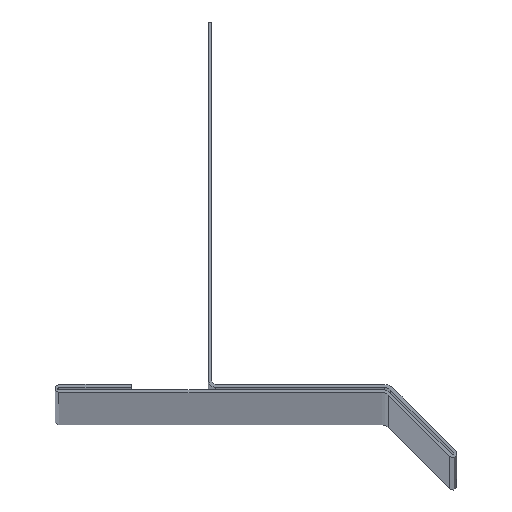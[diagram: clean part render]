
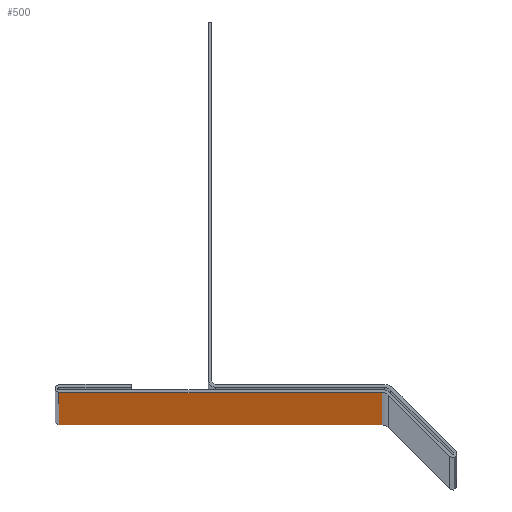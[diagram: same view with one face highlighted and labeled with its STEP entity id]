
A CAD part, top view. The second image highlights one B-rep face of the part: STEP entity #500.
In plain terms, the highlighted planar face has unit normal (0, -1, 0).
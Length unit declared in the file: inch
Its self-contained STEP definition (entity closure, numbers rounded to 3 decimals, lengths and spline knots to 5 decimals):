
#26=PLANE('',#564);
#50=FACE_OUTER_BOUND('',#76,.T.);
#76=EDGE_LOOP('',(#403,#404,#405,#406));
#124=LINE('',#838,#176);
#125=LINE('',#841,#177);
#126=LINE('',#843,#178);
#127=LINE('',#844,#179);
#176=VECTOR('',#688,0.3937);
#177=VECTOR('',#691,0.3937);
#178=VECTOR('',#692,0.3937);
#179=VECTOR('',#693,0.3937);
#245=VERTEX_POINT('',#834);
#246=VERTEX_POINT('',#836);
#247=VERTEX_POINT('',#840);
#248=VERTEX_POINT('',#842);
#312=EDGE_CURVE('',#245,#246,#124,.T.);
#313=EDGE_CURVE('',#245,#247,#125,.T.);
#314=EDGE_CURVE('',#248,#246,#126,.T.);
#315=EDGE_CURVE('',#247,#248,#127,.T.);
#403=ORIENTED_EDGE('',*,*,#313,.F.);
#404=ORIENTED_EDGE('',*,*,#312,.T.);
#405=ORIENTED_EDGE('',*,*,#314,.F.);
#406=ORIENTED_EDGE('',*,*,#315,.F.);
#500=ADVANCED_FACE('',(#50),#26,.T.);
#564=AXIS2_PLACEMENT_3D('',#839,#689,#690);
#688=DIRECTION('',(0.,0.,-1.));
#689=DIRECTION('center_axis',(0.,-1.,0.));
#690=DIRECTION('ref_axis',(-1.,0.,0.));
#691=DIRECTION('',(1.,0.,0.));
#692=DIRECTION('',(-1.,0.,0.));
#693=DIRECTION('',(0.,0.,-1.));
#834=CARTESIAN_POINT('',(-0.94376,-0.95944,0.));
#836=CARTESIAN_POINT('',(-0.94376,-0.95944,-120.));
#838=CARTESIAN_POINT('',(-0.94376,-0.95944,0.));
#839=CARTESIAN_POINT('Origin',(1.1599,-0.95981,0.));
#840=CARTESIAN_POINT('',(1.1599,-0.95981,0.));
#841=CARTESIAN_POINT('',(-0.94376,-0.95944,0.));
#842=CARTESIAN_POINT('',(1.1599,-0.95981,-120.));
#843=CARTESIAN_POINT('',(-0.94376,-0.95944,-120.));
#844=CARTESIAN_POINT('',(1.1599,-0.95981,0.));
